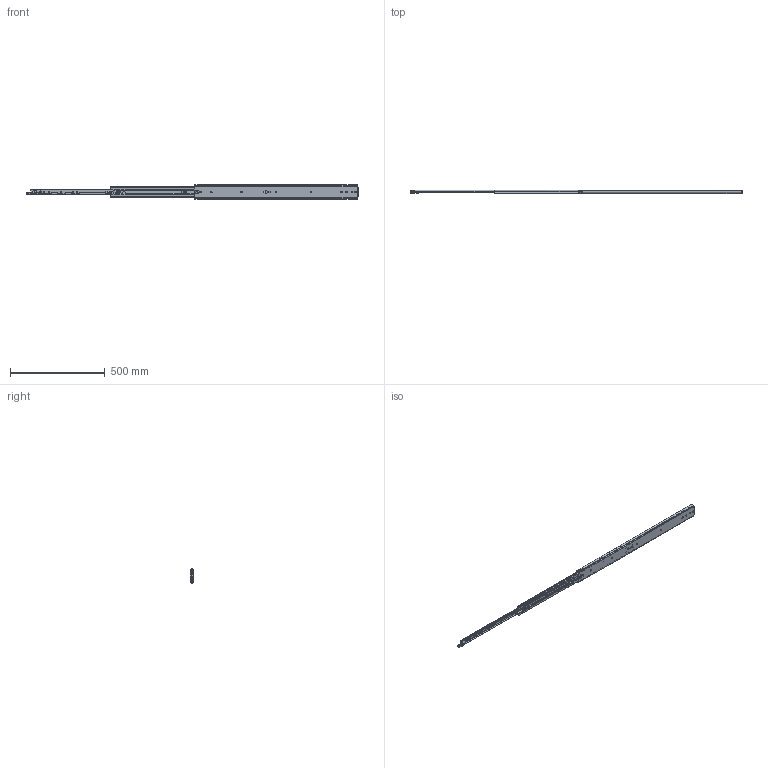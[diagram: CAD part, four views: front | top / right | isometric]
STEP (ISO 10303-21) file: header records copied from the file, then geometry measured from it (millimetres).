
FILE_DESCRIPTION((''),'2;1');
FILE_NAME('DG-76-3S-34ZUO_ASM','2023-05-10T',('jishu015'),(''),'PRO/ENGINEER BY PARAMETRIC TECHNOLOGY CORPORATION, 2010280','PRO/ENGINEER BY PARAMETRIC TECHNOLOGY CORPORATION, 2010280','');
FILE_SCHEMA(('CONFIG_CONTROL_DESIGN'));
Products named in the file (29): KP-76-04WAIKE-1816_______; 1076-WAIKEZIDANJIAO16_______; WAIK16________ASM; 1076XIAOZHUTIAO-22516_______; 16_______; 1076XIAOZHUTIAO-17516________ASM; KP-76-04ZHONGGUI1816_______; 76CHANGGUIZHONGGUIJIAO16_______; 3X6WODIN16_______; ZHONGGUIBAIKOU16_______; PJ-76-30______; PJ-76-03______; 76-XIAOZHUJIA-11______; GANGZHU-XIAO______; ZHUJIA-XIAO_______ASM; ZHONGGUI6________ASM; KP-76-04NEIGUI1816_______; PJ-76-31______; DAOGPIAN16_______; 1053-3SBANJ01______; JIAO-11______; 76XINSUOKOU______; PJ-338______; PJ-356______; PJ-357______; PJ-336______; M4X4______; NEIGUI16________ASM; DG-76-3S-34ZUO_ASM
Assembly tree (73 placements, depth 4):
  DG-76-3S-34ZUO_ASM
    WAIK16________ASM
      KP-76-04WAIKE-1816_______
      1076-WAIKEZIDANJIAO16_______  x2
    1076XIAOZHUTIAO-17516________ASM  x2
      1076XIAOZHUTIAO-22516_______
      16_______
    ZHONGGUI6________ASM
      KP-76-04ZHONGGUI1816_______
      76CHANGGUIZHONGGUIJIAO16_______
      3X6WODIN16_______
      ZHONGGUIBAIKOU16_______
      PJ-76-30______
      PJ-76-03______
      ZHUJIA-XIAO_______ASM
        76-XIAOZHUJIA-11______
        GANGZHU-XIAO______  x30
    NEIGUI16________ASM
      KP-76-04NEIGUI1816_______
      PJ-76-31______
      DAOGPIAN16_______
      1053-3SBANJ01______
      JIAO-11______
      76XINSUOKOU______
      PJ-338______
      PJ-356______
      PJ-357______
      PJ-336______
      M4X4______
Bounding box: 1753.12 x 20.7 x 75.3 mm (x, y, z)
Volume: 567973.4 mm3; surface area: 546276.5 mm2
Topology: 84 solids, 84 shells, 2155 faces, 6488 edges, 4112 vertices
Faces by surface type: plane 1109, cylinder 792, sphere 127, bspline 60, cone 28, extrusion 23, torus 16
Entity records: 70304 total; most frequent: CARTESIAN_POINT 18856, ORIENTED_EDGE 11200, DIRECTION 10231, EDGE_CURVE 5600, VERTEX_POINT 3648, AXIS2_PLACEMENT_3D 3518, VECTOR 3195, LINE 3172
